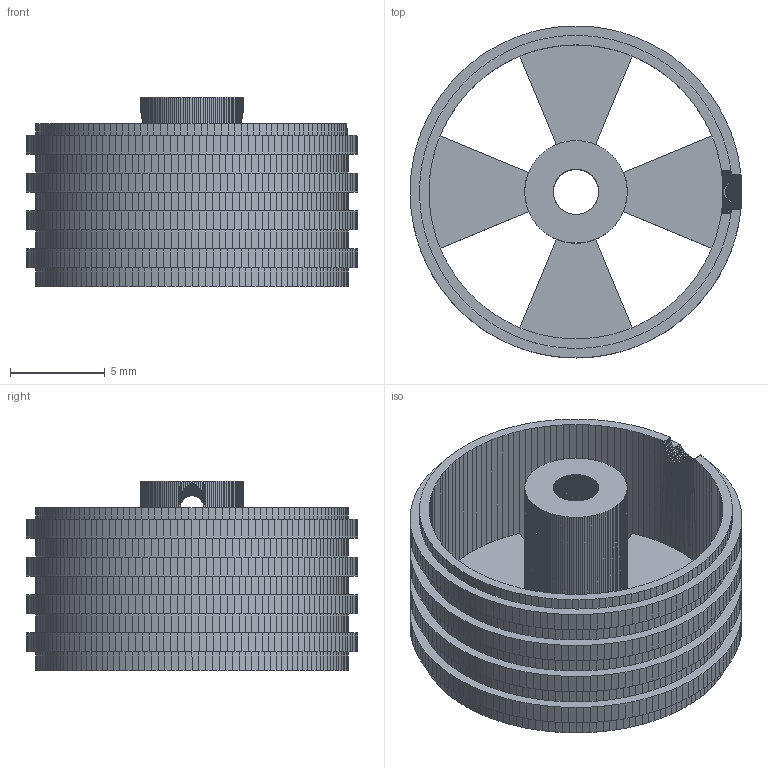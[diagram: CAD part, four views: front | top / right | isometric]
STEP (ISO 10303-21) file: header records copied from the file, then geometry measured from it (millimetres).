
FILE_DESCRIPTION(('Open CASCADE Model'),'2;1');
FILE_NAME('Open CASCADE Shape Model','2026-10-27T10:40:33',('Author'),( 'Open CASCADE'),'Open CASCADE STEP processor 7.9','Open CASCADE 7.9' ,'Unknown');
FILE_SCHEMA(('AUTOMOTIVE_DESIGN { 1 0 10303 214 1 1 1 1 }'));
Products named in the file (1): Open CASCADE STEP translator 7.9 1
Bounding box: 17.5 x 17.5 x 10 mm (x, y, z)
Volume: 667.6 mm3; surface area: 1607.4 mm2
Topology: 1 solids, 1 shells, 4195 faces, 8864 edges, 4670 vertices
Faces by surface type: plane 4195
Entity records: 220224 total; most frequent: CARTESIAN_POINT 35458, DIRECTION 34984, LINE 26592, VECTOR 26592, ORIENTED_EDGE 17728, PCURVE 17728, DEFINITIONAL_REPRESENTATION 17728, EDGE_CURVE 8864
